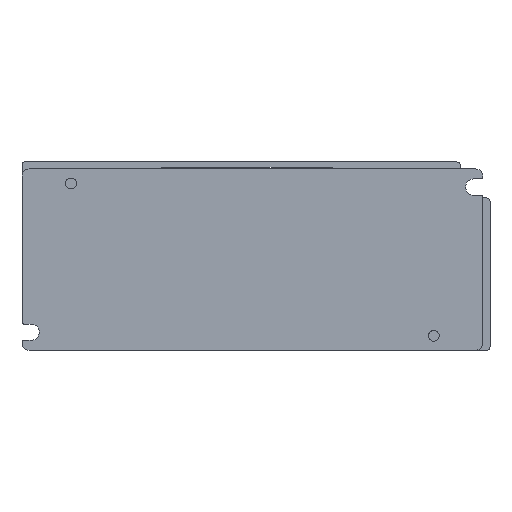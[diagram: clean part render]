
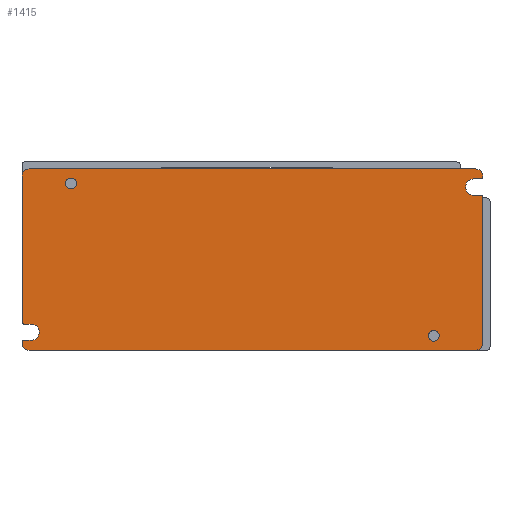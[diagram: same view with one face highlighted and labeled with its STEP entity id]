
A CAD part, front view. The second image highlights one B-rep face of the part: STEP entity #1415.
In plain terms, the highlighted planar face has unit normal (0, -1, 0) as drawn and (0, 0, -1) by its records, which use the part's own axes.
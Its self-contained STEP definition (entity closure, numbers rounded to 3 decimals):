
#30=FACE_BOUND($,#321,.T.);
#31=FACE_BOUND($,#322,.T.);
#32=FACE_BOUND($,#323,.T.);
#132=CIRCLE($,#1531,1.5);
#134=CIRCLE($,#1534,1.5);
#136=CIRCLE($,#1538,0.5);
#138=CIRCLE($,#1542,2.);
#140=CIRCLE($,#1546,2.);
#142=CIRCLE($,#1550,0.5);
#144=CIRCLE($,#1554,2.25);
#146=CIRCLE($,#1559,2.);
#148=CIRCLE($,#1563,2.);
#150=CIRCLE($,#1567,0.5);
#152=CIRCLE($,#1571,2.25);
#321=EDGE_LOOP($,(#1260));
#322=EDGE_LOOP($,(#1261));
#323=EDGE_LOOP($,(#1262,#1263,#1264,#1265,#1266,#1267,#1268,#1269,#1270,
#1271,#1272,#1273,#1274,#1275,#1276,#1277,#1278,#1279,#1280));
#413=LINE($,#2490,#536);
#418=LINE($,#2503,#541);
#422=LINE($,#2515,#545);
#426=LINE($,#2527,#549);
#430=LINE($,#2539,#553);
#434=LINE($,#2551,#557);
#437=LINE($,#2557,#560);
#441=LINE($,#2569,#564);
#445=LINE($,#2581,#568);
#449=LINE($,#2593,#572);
#536=VECTOR($,#1893,2.);
#541=VECTOR($,#1906,0.25);
#545=VECTOR($,#1918,123.);
#549=VECTOR($,#1930,40.25);
#553=VECTOR($,#1942,2.);
#557=VECTOR($,#1954,2.5);
#560=VECTOR($,#1959,0.75);
#564=VECTOR($,#1971,123.);
#568=VECTOR($,#1983,40.25);
#572=VECTOR($,#1995,2.);
#658=VERTEX_POINT($,#2476);
#660=VERTEX_POINT($,#2481);
#663=VERTEX_POINT($,#2487);
#664=VERTEX_POINT($,#2489);
#666=VERTEX_POINT($,#2495);
#668=VERTEX_POINT($,#2501);
#670=VERTEX_POINT($,#2507);
#672=VERTEX_POINT($,#2513);
#674=VERTEX_POINT($,#2519);
#676=VERTEX_POINT($,#2525);
#678=VERTEX_POINT($,#2531);
#680=VERTEX_POINT($,#2537);
#682=VERTEX_POINT($,#2543);
#684=VERTEX_POINT($,#2549);
#686=VERTEX_POINT($,#2555);
#688=VERTEX_POINT($,#2561);
#690=VERTEX_POINT($,#2567);
#692=VERTEX_POINT($,#2573);
#694=VERTEX_POINT($,#2579);
#696=VERTEX_POINT($,#2585);
#698=VERTEX_POINT($,#2591);
#840=EDGE_CURVE($,#658,#658,#132,.T.);
#842=EDGE_CURVE($,#660,#660,#134,.T.);
#845=EDGE_CURVE($,#663,#664,#413,.T.);
#849=EDGE_CURVE($,#666,#663,#136,.T.);
#852=EDGE_CURVE($,#668,#666,#418,.T.);
#855=EDGE_CURVE($,#670,#668,#138,.T.);
#858=EDGE_CURVE($,#672,#670,#422,.T.);
#861=EDGE_CURVE($,#674,#672,#140,.T.);
#864=EDGE_CURVE($,#676,#674,#426,.T.);
#867=EDGE_CURVE($,#678,#676,#142,.T.);
#870=EDGE_CURVE($,#680,#678,#430,.T.);
#873=EDGE_CURVE($,#682,#680,#144,.T.);
#876=EDGE_CURVE($,#684,#682,#434,.T.);
#879=EDGE_CURVE($,#686,#684,#437,.T.);
#882=EDGE_CURVE($,#688,#686,#146,.T.);
#885=EDGE_CURVE($,#690,#688,#441,.T.);
#888=EDGE_CURVE($,#692,#690,#148,.T.);
#891=EDGE_CURVE($,#694,#692,#445,.T.);
#894=EDGE_CURVE($,#696,#694,#150,.T.);
#897=EDGE_CURVE($,#698,#696,#449,.T.);
#899=EDGE_CURVE($,#664,#698,#152,.T.);
#1260=ORIENTED_EDGE($,*,*,#840,.T.);
#1261=ORIENTED_EDGE($,*,*,#842,.T.);
#1262=ORIENTED_EDGE($,*,*,#899,.F.);
#1263=ORIENTED_EDGE($,*,*,#845,.F.);
#1264=ORIENTED_EDGE($,*,*,#849,.F.);
#1265=ORIENTED_EDGE($,*,*,#852,.F.);
#1266=ORIENTED_EDGE($,*,*,#855,.F.);
#1267=ORIENTED_EDGE($,*,*,#858,.F.);
#1268=ORIENTED_EDGE($,*,*,#861,.F.);
#1269=ORIENTED_EDGE($,*,*,#864,.F.);
#1270=ORIENTED_EDGE($,*,*,#867,.F.);
#1271=ORIENTED_EDGE($,*,*,#870,.F.);
#1272=ORIENTED_EDGE($,*,*,#873,.F.);
#1273=ORIENTED_EDGE($,*,*,#876,.F.);
#1274=ORIENTED_EDGE($,*,*,#879,.F.);
#1275=ORIENTED_EDGE($,*,*,#882,.F.);
#1276=ORIENTED_EDGE($,*,*,#885,.F.);
#1277=ORIENTED_EDGE($,*,*,#888,.F.);
#1278=ORIENTED_EDGE($,*,*,#891,.F.);
#1279=ORIENTED_EDGE($,*,*,#894,.F.);
#1280=ORIENTED_EDGE($,*,*,#897,.F.);
#1334=PLANE($,#1572);
#1415=ADVANCED_FACE($,(#30,#31,#32),#1334,.F.);
#1531=AXIS2_PLACEMENT_3D($,#2477,#1881,#1882);
#1534=AXIS2_PLACEMENT_3D($,#2482,#1887,#1888);
#1538=AXIS2_PLACEMENT_3D($,#2497,#1900,#1901);
#1542=AXIS2_PLACEMENT_3D($,#2509,#1912,#1913);
#1546=AXIS2_PLACEMENT_3D($,#2521,#1924,#1925);
#1550=AXIS2_PLACEMENT_3D($,#2533,#1936,#1937);
#1554=AXIS2_PLACEMENT_3D($,#2545,#1948,#1949);
#1559=AXIS2_PLACEMENT_3D($,#2563,#1965,#1966);
#1563=AXIS2_PLACEMENT_3D($,#2575,#1977,#1978);
#1567=AXIS2_PLACEMENT_3D($,#2587,#1989,#1990);
#1571=AXIS2_PLACEMENT_3D($,#2596,#2000,#2001);
#1572=AXIS2_PLACEMENT_3D($,#2597,#2002,#2003);
#1881=DIRECTION('center_axis',(0.,0.,1.));
#1882=DIRECTION('ref_axis',(-1.,0.,0.));
#1887=DIRECTION('center_axis',(0.,0.,1.));
#1888=DIRECTION('ref_axis',(-1.,0.,0.));
#1893=DIRECTION($,(1.,0.,0.));
#1900=DIRECTION('center_axis',(0.,0.,1.));
#1901=DIRECTION('ref_axis',(-1.,0.,0.));
#1906=DIRECTION($,(0.,-1.,0.));
#1912=DIRECTION('center_axis',(0.,0.,1.));
#1913=DIRECTION('ref_axis',(0.,1.,0.));
#1918=DIRECTION($,(-1.,0.,0.));
#1924=DIRECTION('center_axis',(0.,0.,1.));
#1925=DIRECTION('ref_axis',(1.,0.,0.));
#1930=DIRECTION($,(0.,1.,0.));
#1936=DIRECTION('center_axis',(0.,0.,1.));
#1937=DIRECTION('ref_axis',(0.,-1.,0.));
#1942=DIRECTION($,(1.,0.,0.));
#1948=DIRECTION('center_axis',(0.,0.,-1.));
#1949=DIRECTION('ref_axis',(0.,-1.,0.));
#1954=DIRECTION($,(-1.,0.,0.));
#1959=DIRECTION($,(0.,1.,0.));
#1965=DIRECTION('center_axis',(0.,0.,1.));
#1966=DIRECTION('ref_axis',(0.,-1.,0.));
#1971=DIRECTION($,(1.,0.,0.));
#1977=DIRECTION('center_axis',(0.,0.,1.));
#1978=DIRECTION('ref_axis',(-1.,0.,0.));
#1983=DIRECTION($,(0.,-1.,0.));
#1989=DIRECTION('center_axis',(0.,0.,1.));
#1990=DIRECTION('ref_axis',(0.,1.,0.));
#1995=DIRECTION($,(-1.,0.,0.));
#2000=DIRECTION('center_axis',(0.,0.,-1.));
#2001=DIRECTION('ref_axis',(0.,1.,0.));
#2002=DIRECTION('center_axis',(0.,0.,1.));
#2003=DIRECTION('ref_axis',(1.,0.,0.));
#2476=CARTESIAN_POINT('',(-6.505,-36.502,0.));
#2477=CARTESIAN_POINT('Origin',(-8.005,-36.502,0.));
#2481=CARTESIAN_POINT('',(93.495,5.498,0.));
#2482=CARTESIAN_POINT('Origin',(91.995,5.498,0.));
#2487=CARTESIAN_POINT('',(-21.005,6.748,0.));
#2489=CARTESIAN_POINT('',(-19.005,6.748,0.));
#2490=CARTESIAN_POINT($,(-21.005,6.748,0.));
#2495=CARTESIAN_POINT('',(-21.505,7.248,0.));
#2497=CARTESIAN_POINT('Origin',(-21.005,7.248,0.));
#2501=CARTESIAN_POINT('',(-21.505,7.498,0.));
#2503=CARTESIAN_POINT($,(-21.505,7.498,0.));
#2507=CARTESIAN_POINT('',(-19.505,9.498,0.));
#2509=CARTESIAN_POINT('Origin',(-19.505,7.498,0.));
#2513=CARTESIAN_POINT('',(103.495,9.498,0.));
#2515=CARTESIAN_POINT($,(103.495,9.498,0.));
#2519=CARTESIAN_POINT('',(105.495,7.498,0.));
#2521=CARTESIAN_POINT('Origin',(103.495,7.498,0.));
#2525=CARTESIAN_POINT('',(105.495,-32.752,0.));
#2527=CARTESIAN_POINT($,(105.495,-32.752,0.));
#2531=CARTESIAN_POINT('',(104.995,-33.252,0.));
#2533=CARTESIAN_POINT('Origin',(104.995,-32.752,0.));
#2537=CARTESIAN_POINT('',(102.995,-33.252,0.));
#2539=CARTESIAN_POINT($,(102.995,-33.252,0.));
#2543=CARTESIAN_POINT('',(102.995,-37.752,0.));
#2545=CARTESIAN_POINT('Origin',(102.995,-35.502,0.));
#2549=CARTESIAN_POINT('',(105.495,-37.752,0.));
#2551=CARTESIAN_POINT($,(105.495,-37.752,0.));
#2555=CARTESIAN_POINT('',(105.495,-38.502,0.));
#2557=CARTESIAN_POINT($,(105.495,-38.502,0.));
#2561=CARTESIAN_POINT('',(103.495,-40.502,0.));
#2563=CARTESIAN_POINT('Origin',(103.495,-38.502,0.));
#2567=CARTESIAN_POINT('',(-19.505,-40.502,0.));
#2569=CARTESIAN_POINT($,(-19.505,-40.502,0.));
#2573=CARTESIAN_POINT('',(-21.505,-38.502,0.));
#2575=CARTESIAN_POINT('Origin',(-19.505,-38.502,0.));
#2579=CARTESIAN_POINT('',(-21.505,1.748,0.));
#2581=CARTESIAN_POINT($,(-21.505,1.748,0.));
#2585=CARTESIAN_POINT('',(-21.005,2.248,0.));
#2587=CARTESIAN_POINT('Origin',(-21.005,1.748,0.));
#2591=CARTESIAN_POINT('',(-19.005,2.248,0.));
#2593=CARTESIAN_POINT($,(-19.005,2.248,0.));
#2596=CARTESIAN_POINT('Origin',(-19.005,4.498,0.));
#2597=CARTESIAN_POINT('Origin',(42.032,-15.515,0.));
